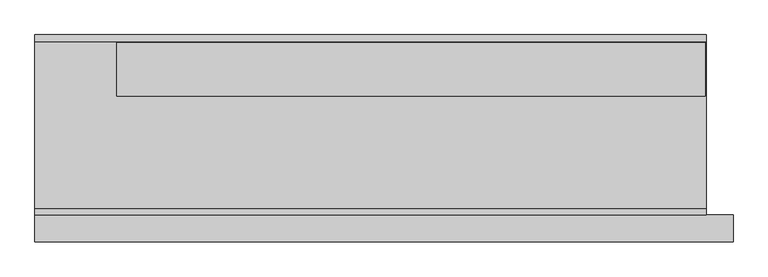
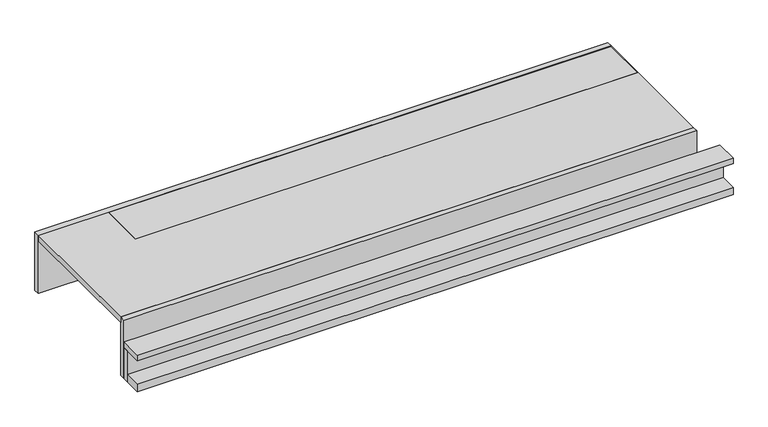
"""IFC4 building model written with IfcOpenShell, lengths in millimetres: proxy geometry, ELEVATE^ADMIN_74.38x23x8 FRONT WIRE WALL-BASE TAIL RIGHT."""

from ifc_helpers import new_model, si_unit, frame, origin, place, context, project, spatial, polyline, outline, extrude, source, transform, mapped, element, save


def generic_models_3f3b0598(model_context):
    return source(origin(), model_context, "Body", "SweptSolid", [
        extrude(outline(polyline([(3489.325, 76.2), (5454.65, 76.2), (5454.65, 57.15), (3489.325, 57.15), (3489.325, 76.2)])), frame((0.0, 0.0, -127.0), z_axis=(0.0, 0.0, 1.0), x_axis=(1.0, 0.0, 0.0)), (0.0, 0.0, 1.0), 107.95),
        extrude(outline(polyline([(3720.30625, 411.95625), (3720.30625, 561.975), (5376.06875, 561.975), (5376.06875, 411.95625), (3720.30625, 411.95625)])), frame((0.0, 0.0, 57.15), z_axis=(0.0, 0.0, 1.0), x_axis=(1.0, 0.0, 0.0)), (0.0, 0.0, 1.0), 19.05),
        extrude(outline(polyline([(5378.45, 565.15), (3489.325, 565.15), (3489.325, 584.2), (5378.45, 584.2), (5378.45, 565.15)])), frame((0.0, 0.0, -127.0), z_axis=(0.0, 0.0, 1.0), x_axis=(1.0, 0.0, 0.0)), (0.0, 0.0, 1.0), 203.2),
        extrude(outline(polyline([(5378.45, 565.15), (5378.45, 95.25), (3489.325, 95.25), (3489.325, 565.15), (5378.45, 565.15)])), frame((0.0, 0.0, 57.15), z_axis=(0.0, 0.0, 1.0), x_axis=(1.0, 0.0, 0.0)), (0.0, 0.0, 1.0), 19.05),
        extrude(outline(polyline([(5454.65, 0.0), (3489.325, 0.0), (3489.325, 76.2), (5454.65, 76.2), (5454.65, 0.0)])), frame((0.0, 0.0, -19.05), z_axis=(0.0, 0.0, 1.0), x_axis=(1.0, 0.0, 0.0)), (0.0, 0.0, 1.0), 19.05),
        extrude(outline(polyline([(5378.45, 76.2), (3489.325, 76.2), (3489.325, 95.25), (5378.45, 95.25), (5378.45, 76.2)])), frame((0.0, 0.0, -127.0), z_axis=(0.0, 0.0, 1.0), x_axis=(1.0, 0.0, 0.0)), (0.0, 0.0, 1.0), 203.2),
        extrude(outline(polyline([(3489.325, 0.0), (3489.325, 57.15), (5454.65, 57.15), (5454.65, 0.0), (3489.325, 0.0)])), frame((0.0, 0.0, -127.0), z_axis=(0.0, 0.0, 1.0), x_axis=(1.0, 0.0, 0.0)), (0.0, 0.0, 1.0), 25.4),
    ])


if __name__ == "__main__":
    model = new_model("IFC4")
    model_context = context("Model", 3, world=origin())
    ifc_project = project(units=[si_unit("LENGTHUNIT", "METRE", prefix="MILLI")], contexts=[model_context])
    site = spatial("IfcSite", under=ifc_project)
    building = spatial("IfcBuilding", under=site)
    placement = place(None, origin())
    generic_models_shape = generic_models_3f3b0598(model_context)
    element("IfcBuildingElementProxy", 1, Name="ELEVATE^ADMIN_74.38x23x8 FRONT WIRE WALL-BASE TAIL RIGHT", ObjectType="ELEVATE^ADMIN_74.38x23x8 FRONT WIRE WALL-BASE TAIL RIGHT", at=placement, inside=building, context=model_context, shape_type="MappedRepresentation", body=[
        mapped(generic_models_shape, transform((0.0, 0.0, 0.0), x_axis=(1.0, 0.0, 0.0), y_axis=(0.0, 1.0, 0.0), z_axis=(0.0, 0.0, 1.0))),
    ])
    save(model, "model.ifc")
